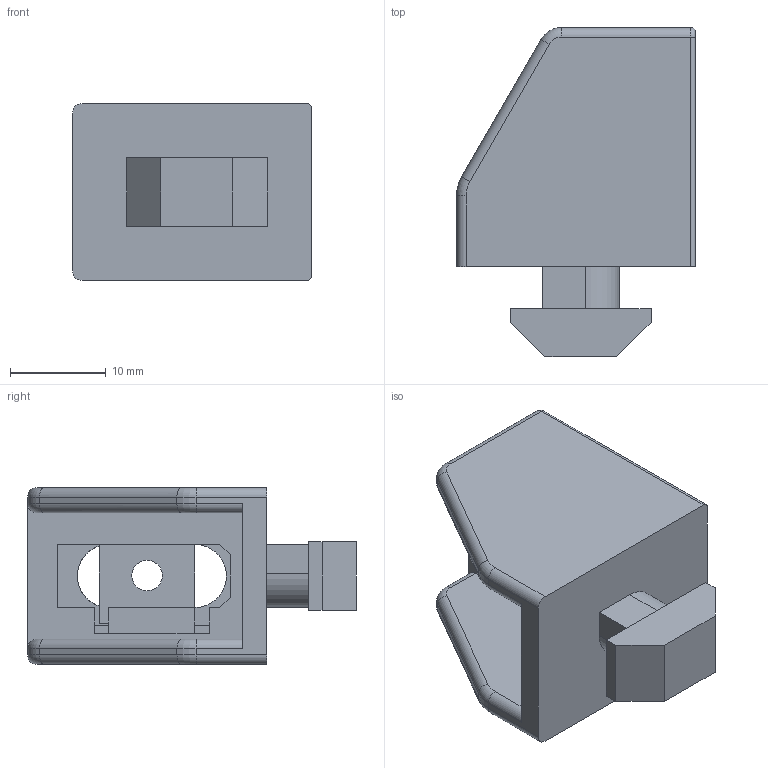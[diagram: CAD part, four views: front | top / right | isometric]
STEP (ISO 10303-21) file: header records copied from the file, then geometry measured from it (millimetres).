
FILE_DESCRIPTION(/* description */ ('STEP AP214'),/* implementation_level */ '2;1');
FILE_NAME(/* name */ '094020M6',/* time_stamp */ '2023-08-30T13:18:06+02:00',/* author */ ('License CC BY-ND 4.0'),/* organization */ ('CADENAS'),/* preprocessor_version */ 'ST-DEVELOPER v19.3',/* originating_system */ 'PARTsolutions',/* authorisation */ ' ');
FILE_SCHEMA (('AUTOMOTIVE_DESIGN {1 0 10303 214 3 1 1}'));
Length unit declared in the file: millimetre
Products named in the file (1): 094020M6
Bounding box: 25 x 34.4 x 18.5 mm (x, y, z)
Volume: 5959.1 mm3; surface area: 4546.9 mm2
Topology: 1 solids, 1 shells, 94 faces, 244 edges, 154 vertices
Faces by surface type: plane 58, cylinder 26, torus 10
Full cylindrical faces by diameter (mm): 2 x2, 3.2 x1
Entity records: 3533 total; most frequent: CARTESIAN_POINT 501, DIRECTION 492, ORIENTED_EDGE 482, EDGE_CURVE 241, LINE 174, VECTOR 174, AXIS2_PLACEMENT_3D 159, VERTEX_POINT 154
